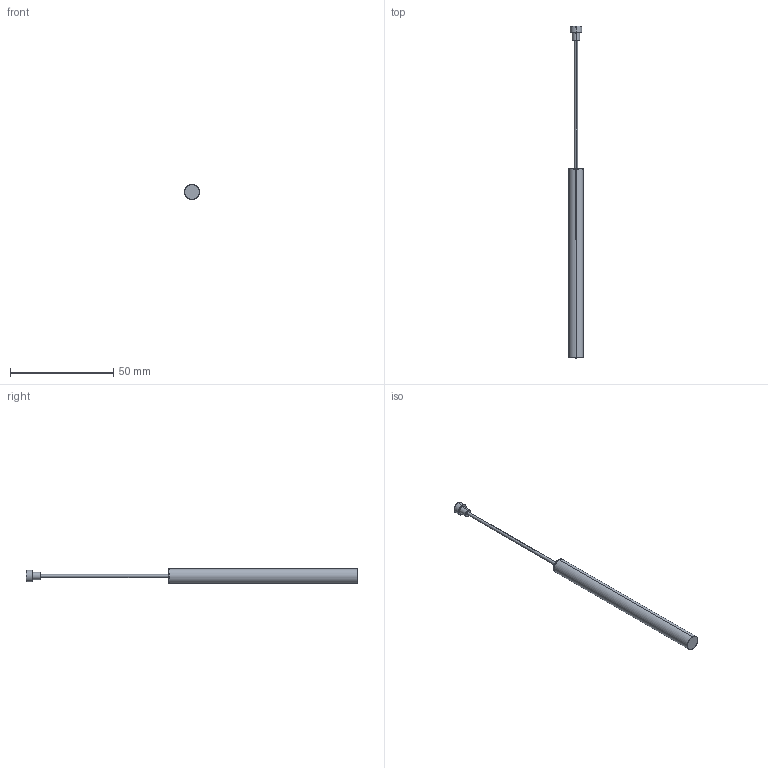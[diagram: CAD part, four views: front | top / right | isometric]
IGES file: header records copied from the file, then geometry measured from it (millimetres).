
Start section: SolidWorks IGES file using analytic representation for surfaces
Bounding box: 7.2 x 161 x 7.2 mm (x, y, z)
Surface area: 2710.3 mm2 (no closed solid volume)
Topology: 0 solids, 0 shells, 19 faces, 280 edges, 280 vertices
Faces by surface type: revolution 10, bspline 9
